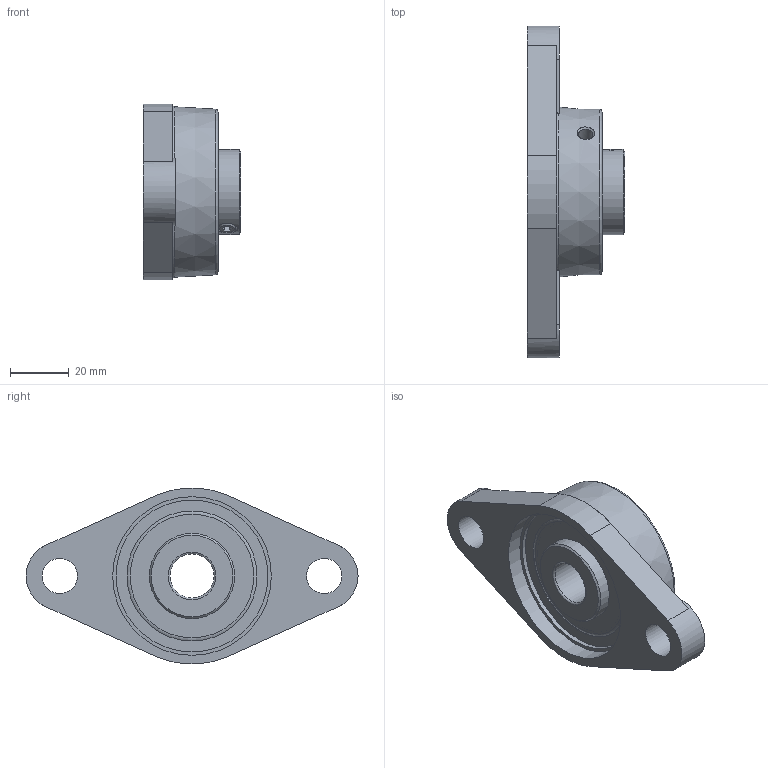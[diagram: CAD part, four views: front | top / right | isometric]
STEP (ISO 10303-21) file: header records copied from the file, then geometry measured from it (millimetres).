
FILE_DESCRIPTION (( 'STEP AP203' ), '1' );
FILE_NAME ('UCFL-202.STEP', '2019-03-08T12:13:50', ( '' ), ( '' ), 'SwSTEP 2.0', 'SolidWorks 2017', '' );
FILE_SCHEMA (( 'CONFIG_CONTROL_DESIGN' ));
Length unit declared in the file: millimetre
Products named in the file (1): UCFL-202
Bounding box: 33.3 x 113 x 59.78 mm (x, y, z)
Volume: 60822.7 mm3; surface area: 23709.4 mm2
Topology: 1 solids, 3 shells, 93 faces, 210 edges, 141 vertices
Faces by surface type: plane 43, cylinder 24, cone 10, torus 9, sphere 7
Full cylindrical faces by diameter (mm): 0.8 x4, 4.918 x1, 6 x3, 12 x2, 15 x1, 29 x4, 40.314 x2, 51.7 x1, 54 x2
Entity records: 2845 total; most frequent: CARTESIAN_POINT 922, DIRECTION 384, ORIENTED_EDGE 304, AXIS2_PLACEMENT_3D 160, EDGE_LOOP 158, EDGE_CURVE 152, VERTEX_POINT 120, FACE_OUTER_BOUND 120
